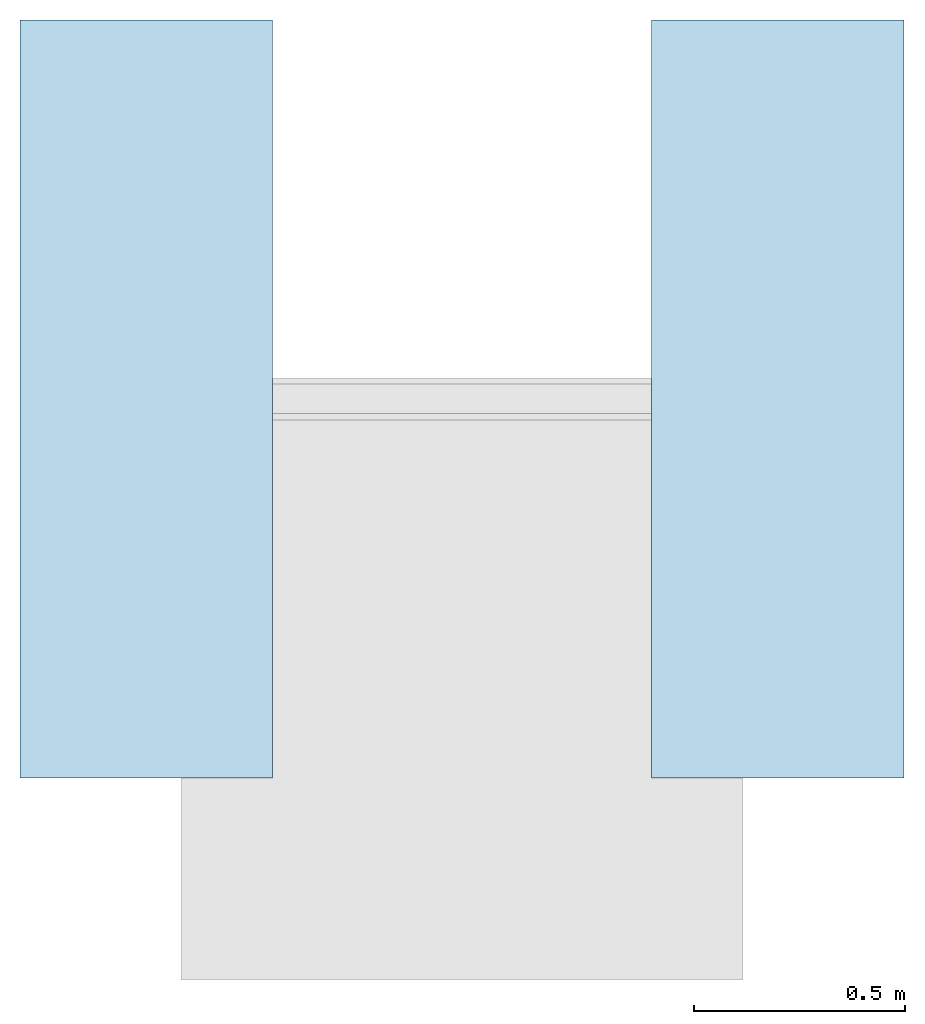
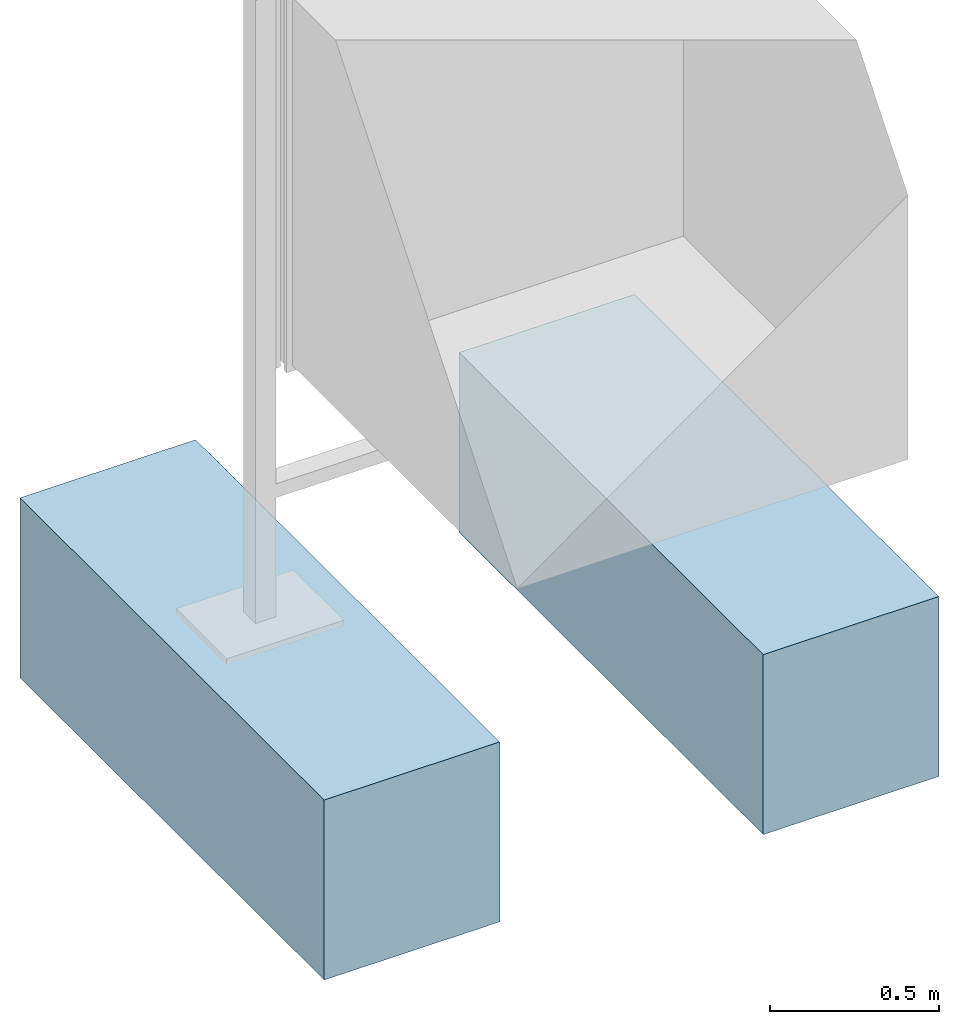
# One storey, incomplete: 2 slabs.
"""IFC4 building model written with IfcOpenShell, lengths in metres."""

from ifc_helpers import new_model, entity, si_unit, converted_unit, direction, frame, frame_2d, origin, origin_2d_with_axis, place, context, subcontext, project, spatial, rectangle, extrude, material, type_object, element, save


model = new_model("IFC4")

# Units and contexts
model_context = context("Model", 3, precision=1e-05, world=origin(), true_north=direction((6.123031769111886e-17, 1.0)))
body_context = subcontext(model_context, "Body", "Model", "MODEL_VIEW")
ifc_project = project(units=[si_unit("LENGTHUNIT", "METRE"), converted_unit("PLANEANGLEUNIT", "DEGREE", entity("IfcPlaneAngleMeasure", 0.017453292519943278), si_unit("PLANEANGLEUNIT", "RADIAN"), dimensions=[0, 0, 0, 0, 0, 0, 0]), si_unit("AREAUNIT", "SQUARE_METRE")], contexts=[model_context])

# Site, building, storey
site_placement = place(None, origin())
site = spatial("IfcSite", under=ifc_project, at=site_placement, Name="Default", CompositionType="ELEMENT")
building_placement = place(site_placement, origin())
building = spatial("IfcBuilding", under=site, at=building_placement, CompositionType="ELEMENT")
storey_placement = place(building_placement, origin())
storey = spatial("IfcBuildingStorey", under=building, at=storey_placement, Name="DB_Bezugshoehe_max_Bahnsteigkante", CompositionType="ELEMENT", Elevation=0.0)

# Slabs
ifc_material = material(Name="DB_Ortbeton", Category="DB_Beton")
slab_type = type_object("IfcSlabType", Name="DB_Vitrine_Fundament:DB_Vitrine_Fundament", PredefinedType="BASESLAB", material=ifc_material)
slab_1_placement = place(storey_placement, origin())
element("IfcSlab", 1, at=slab_1_placement, inside=storey, type_object=slab_type, Name="DB_Vitrine_Fundament:DB_Vitrine_Fundament", ObjectType="DB_Vitrine_Fundament:DB_Vitrine_Fundament", PredefinedType="BASESLAB", context=body_context, shape_type="SweptSolid", body=[
    extrude(rectangle(XDim=1.8, YDim=0.5999999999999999, at=origin_2d_with_axis()), frame((0.0, 0.0, 0.04999999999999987), z_axis=(0.0, 0.0, 1.0), x_axis=(0.0, 1.0, 0.0)), (0.0, 0.0, 1.0), 0.5999999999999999),
    extrude(rectangle(XDim=0.5999999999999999, YDim=1.7999999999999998, at=origin_2d_with_axis()), frame((0.0, 0.0, 0.0), z_axis=(0.0, 0.0, 1.0), x_axis=(-1.0, 0.0, 0.0)), (0.0, 0.0, 1.0), 0.04999999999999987),
])
slab_2_placement = place(storey_placement, origin())
element("IfcSlab", 2, at=slab_2_placement, inside=storey, type_object=slab_type, Name="DB_Vitrine_Fundament:DB_Vitrine_Fundament", ObjectType="DB_Vitrine_Fundament:DB_Vitrine_Fundament", PredefinedType="BASESLAB", context=body_context, shape_type="SweptSolid", body=[
    extrude(rectangle(XDim=1.8, YDim=0.5999999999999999, at=frame_2d((0.0, -8.326672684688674e-17), x_axis=(1.0, 0.0))), frame((1.5000000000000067, 0.0, 0.04999999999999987), z_axis=(0.0, 0.0, 1.0), x_axis=(0.0, 1.0, 0.0)), (0.0, 0.0, 1.0), 0.5999999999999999),
    extrude(rectangle(XDim=0.6000000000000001, YDim=1.7999999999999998, at=origin_2d_with_axis()), frame((1.5000000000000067, 0.0, 0.0), z_axis=(0.0, 0.0, 1.0), x_axis=(-1.0, 0.0, 0.0)), (0.0, 0.0, 1.0), 0.04999999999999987),
])

save(model, "model.ifc")
